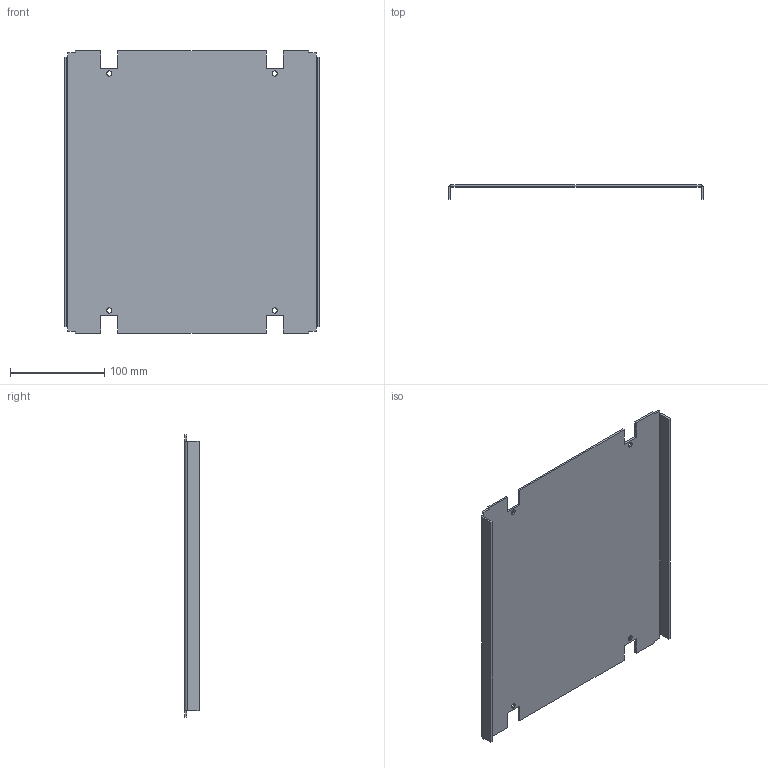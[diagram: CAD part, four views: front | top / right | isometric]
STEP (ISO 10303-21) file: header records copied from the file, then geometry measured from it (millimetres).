
FILE_DESCRIPTION(('CAx-IF Rec.Pracs.---Model Styling and Organization---1.2---2011-12-15','CAx-IF Rec.Pracs.---Geometric and Assembly Validation Properties---4.1---2014-06-16','CAx-IF Rec.Pracs.---PMI Polyline Presentation---2.0---2013-05-24'),'2;1');
FILE_NAME('R5CPL430.stp','2021-05-06T03:43:45+03:00',(''),(''),'STEP Interface 4.4 by CT CoreTechnologie','3D_Evolution4.4 by CT CoreTechnologie','');
FILE_SCHEMA(('AUTOMOTIVE_DESIGN { 1 0 10303 214 1 1 1 1 }'));
Length unit declared in the file: millimetre
Products named in the file (2): R5CPL430; RB.0549.00.00.0_-16
Assembly tree (1 placements, depth 2):
  R5CPL430
    RB.0549.00.00.0_-16
Bounding box: 269 x 15 x 299 mm (x, y, z)
Surface area: 174489.8 mm2 (no closed solid volume)
Topology: 0 solids, 1 shells, 56 faces, 158 edges, 104 vertices
Faces by surface type: plane 44, cylinder 12
Entity records: 1883 total; most frequent: CARTESIAN_POINT 320, ORIENTED_EDGE 316, DIRECTION 298, EDGE_CURVE 158, VECTOR 134, LINE 134, VERTEX_POINT 104, AXIS2_PLACEMENT_3D 82
